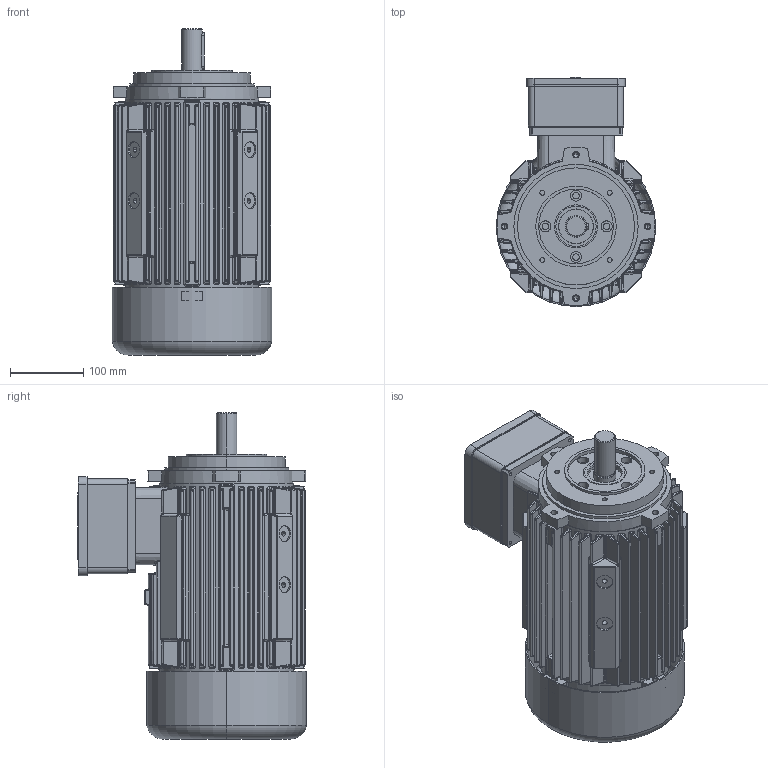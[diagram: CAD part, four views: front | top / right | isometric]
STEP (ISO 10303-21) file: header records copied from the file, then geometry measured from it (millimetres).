
FILE_DESCRIPTION (( 'STEP AP214' ), '1' );
FILE_NAME ('20.18455-C 7AT 112 B14_small Exde STANDK.STEP', '2018-05-11T08:13:54', ( '' ), ( '' ), 'SwSTEP 2.0', 'SolidWorks 2017', '' );
FILE_SCHEMA (( 'AUTOMOTIVE_DESIGN' ));
Length unit declared in the file: millimetre
Products named in the file (1): 20.18455-C 7AT 112 B14_small Exde STANDK
Bounding box: 218 x 312.8 x 446 mm (x, y, z)
Volume: 4660669.3 mm3; surface area: 1266917.7 mm2
Topology: 10 solids, 10 shells, 2933 faces, 7123 edges, 4113 vertices
Faces by surface type: cylinder 1052, bspline 952, plane 598, sphere 126, torus 105, cone 100
Entity records: 149329 total; most frequent: CARTESIAN_POINT 58156, ORIENTED_EDGE 13774, DIRECTION 11140, EDGE_CURVE 6887, AXIS2_PLACEMENT_3D 4392, VERTEX_POINT 4103, EDGE_LOOP 3142, FACE_OUTER_BOUND 2933
